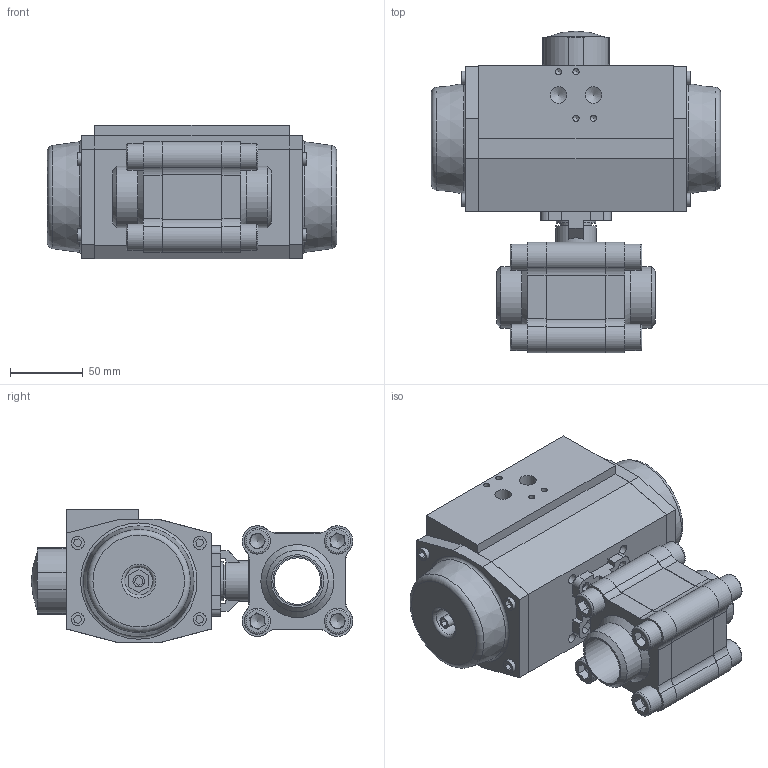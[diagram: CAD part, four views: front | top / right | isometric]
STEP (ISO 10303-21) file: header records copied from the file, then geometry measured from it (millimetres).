
FILE_DESCRIPTION (( 'STEP AP214' ), '1' );
FILE_NAME ('S33D BW DN32 + AP3.STEP', '2025-08-13T08:24:58', ( '' ), ( '' ), 'SwSTEP 2.0', 'SolidWorks 2021', '' );
FILE_SCHEMA (( 'AUTOMOTIVE_DESIGN' ));
Length unit declared in the file: millimetre
Products named in the file (6): S33D DN32 Buttweld; S33D Flens Buttweld DN32; AP3_Default<As Machined>; S33D BW DN32 + AP3; S33D KK DN32 PN100; socket head cap screw_din_DIN 912 M12 x 30 --- 30N
Assembly tree (13 placements, depth 3):
  S33D BW DN32 + AP3
    S33D DN32 Buttweld
      S33D KK DN32 PN100
      S33D Flens Buttweld DN32  x2
      socket head cap screw_din_DIN 912 M12 x 30 --- 30N  x8
    AP3_Default<As Machined>
Bounding box: 199 x 221.25 x 92 mm (x, y, z)
Volume: 1830506 mm3; surface area: 201153.4 mm2
Topology: 19 solids, 19 shells, 540 faces, 1301 edges, 838 vertices
Faces by surface type: plane 355, cylinder 122, cone 40, torus 22, sphere 1
Full cylindrical faces by diameter (mm): 4.2 x8, 5 x4, 6.8 x4, 8 x2, 9 x8, 10.5 x4, 11.445 x2, 12 x8, 12.5 x8, 18 x8, 19.3 x2, 22 x1, 27 x1, 28 x2, 32 x1, 32.5 x1, 33.8 x2, 35 x1, 42.3 x2, 45.8 x1
Entity records: 11472 total; most frequent: DIRECTION 1771, CARTESIAN_POINT 1760, ORIENTED_EDGE 1602, EDGE_CURVE 801, LINE 593, VECTOR 593, AXIS2_PLACEMENT_3D 589, VERTEX_POINT 570
